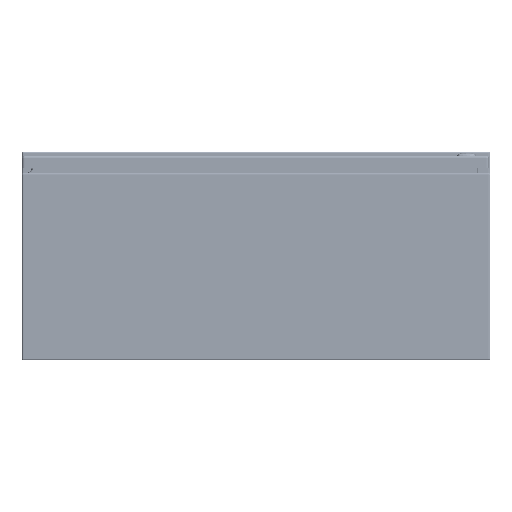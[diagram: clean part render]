
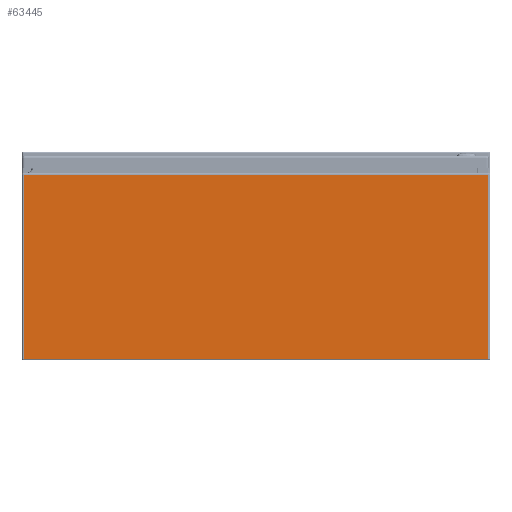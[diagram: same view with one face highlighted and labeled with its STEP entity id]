
A CAD part, front view. The second image highlights one B-rep face of the part: STEP entity #63445.
In plain terms, the highlighted planar face has unit normal (0, -1, 0).
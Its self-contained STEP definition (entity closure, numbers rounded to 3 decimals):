
#6223=LINE('',#87150,#10420);
#6224=LINE('',#87160,#10421);
#6225=LINE('',#87164,#10422);
#6226=LINE('',#87165,#10423);
#10420=VECTOR('',#73141,0.394);
#10421=VECTOR('',#73156,0.394);
#10422=VECTOR('',#73161,0.394);
#10423=VECTOR('',#73162,0.394);
#15509=FACE_OUTER_BOUND('',#19301,.T.);
#19301=EDGE_LOOP('',(#42144,#42145,#42146,#42147));
#25288=VERTEX_POINT('',#87143);
#25291=VERTEX_POINT('',#87148);
#25293=VERTEX_POINT('',#87159);
#25294=VERTEX_POINT('',#87163);
#31883=EDGE_CURVE('',#25291,#25288,#6223,.T.);
#31888=EDGE_CURVE('',#25293,#25288,#6224,.T.);
#31890=EDGE_CURVE('',#25291,#25294,#6225,.T.);
#31891=EDGE_CURVE('',#25293,#25294,#6226,.T.);
#42144=ORIENTED_EDGE('',*,*,#31883,.F.);
#42145=ORIENTED_EDGE('',*,*,#31890,.T.);
#42146=ORIENTED_EDGE('',*,*,#31891,.F.);
#42147=ORIENTED_EDGE('',*,*,#31888,.T.);
#61939=PLANE('',#68084);
#63445=ADVANCED_FACE('',(#15509),#61939,.F.);
#68084=AXIS2_PLACEMENT_3D('',#87162,#73159,#73160);
#73141=DIRECTION('',(0.,0.,1.));
#73156=DIRECTION('',(-1.,0.,0.));
#73159=DIRECTION('center_axis',(0.,1.,0.));
#73160=DIRECTION('ref_axis',(0.,0.,1.));
#73161=DIRECTION('',(1.,0.,0.));
#73162=DIRECTION('',(0.,0.,-1.));
#87143=CARTESIAN_POINT('',(-14.901,-15.,11.901));
#87148=CARTESIAN_POINT('',(-14.901,-15.,0.099));
#87150=CARTESIAN_POINT('',(-14.901,-15.,6.));
#87159=CARTESIAN_POINT('',(14.901,-15.,11.901));
#87160=CARTESIAN_POINT('',(-7.455,-15.,11.901));
#87162=CARTESIAN_POINT('Origin',(0.,-15.,6.));
#87163=CARTESIAN_POINT('',(14.901,-15.,0.099));
#87164=CARTESIAN_POINT('',(-15.,-15.,0.099));
#87165=CARTESIAN_POINT('',(14.901,-15.,6.));
